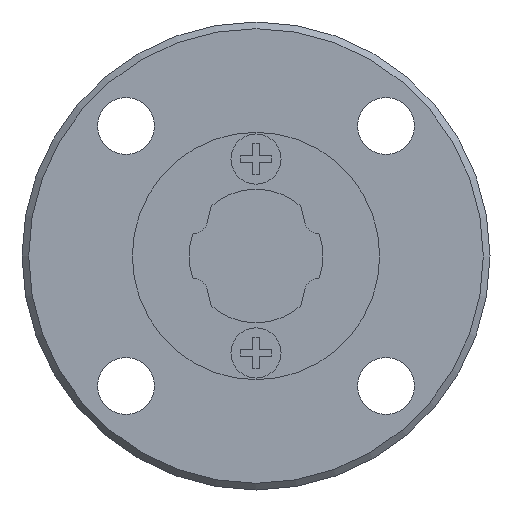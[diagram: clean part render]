
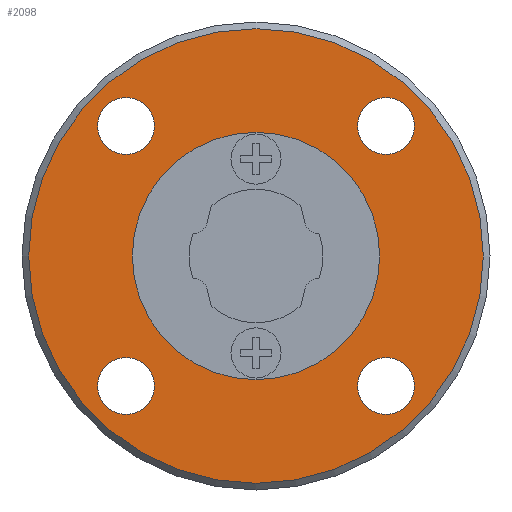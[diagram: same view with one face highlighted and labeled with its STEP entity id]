
A CAD part, left-side view. The second image highlights one B-rep face of the part: STEP entity #2098.
In plain terms, the highlighted planar face has unit normal (-1, 0, 0).
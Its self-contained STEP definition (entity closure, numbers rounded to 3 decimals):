
#48=PLANE('',#2319);
#702=ORIENTED_EDGE('',*,*,#1233,.F.);
#703=ORIENTED_EDGE('',*,*,#1234,.F.);
#704=ORIENTED_EDGE('',*,*,#1235,.F.);
#705=ORIENTED_EDGE('',*,*,#1236,.F.);
#706=ORIENTED_EDGE('',*,*,#1237,.F.);
#707=ORIENTED_EDGE('',*,*,#1232,.T.);
#1232=EDGE_CURVE('',#1508,#1508,#1676,.T.);
#1233=EDGE_CURVE('',#1509,#1509,#1677,.T.);
#1234=EDGE_CURVE('',#1510,#1510,#1678,.F.);
#1235=EDGE_CURVE('',#1511,#1511,#1679,.F.);
#1236=EDGE_CURVE('',#1512,#1512,#1680,.F.);
#1237=EDGE_CURVE('',#1513,#1513,#1681,.F.);
#1508=VERTEX_POINT('',#3339);
#1509=VERTEX_POINT('',#3342);
#1510=VERTEX_POINT('',#3344);
#1511=VERTEX_POINT('',#3346);
#1512=VERTEX_POINT('',#3348);
#1513=VERTEX_POINT('',#3350);
#1676=CIRCLE('',#2318,7.4);
#1677=CIRCLE('',#2320,13.6);
#1678=CIRCLE('',#2321,1.7);
#1679=CIRCLE('',#2322,1.7);
#1680=CIRCLE('',#2323,1.7);
#1681=CIRCLE('',#2324,1.7);
#1732=EDGE_LOOP('',(#702));
#1733=EDGE_LOOP('',(#703));
#1734=EDGE_LOOP('',(#704));
#1735=EDGE_LOOP('',(#705));
#1736=EDGE_LOOP('',(#706));
#1737=EDGE_LOOP('',(#707));
#1896=FACE_BOUND('',#1732,.T.);
#1897=FACE_BOUND('',#1733,.T.);
#1898=FACE_BOUND('',#1734,.T.);
#1899=FACE_BOUND('',#1735,.T.);
#1900=FACE_BOUND('',#1736,.T.);
#1901=FACE_BOUND('',#1737,.T.);
#2098=ADVANCED_FACE('',(#1896,#1897,#1898,#1899,#1900,#1901),#48,.F.);
#2318=AXIS2_PLACEMENT_3D('',#3338,#2695,#2696);
#2319=AXIS2_PLACEMENT_3D('',#3340,#2697,#2698);
#2320=AXIS2_PLACEMENT_3D('',#3341,#2699,#2700);
#2321=AXIS2_PLACEMENT_3D('',#3343,#2701,#2702);
#2322=AXIS2_PLACEMENT_3D('',#3345,#2703,#2704);
#2323=AXIS2_PLACEMENT_3D('',#3347,#2705,#2706);
#2324=AXIS2_PLACEMENT_3D('',#3349,#2707,#2708);
#2695=DIRECTION('',(1.,0.,0.));
#2696=DIRECTION('',(0.,0.,-1.));
#2697=DIRECTION('',(1.,0.,0.));
#2698=DIRECTION('',(0.,0.,-1.));
#2699=DIRECTION('',(1.,0.,0.));
#2700=DIRECTION('',(0.,0.,-1.));
#2701=DIRECTION('',(1.,0.,0.));
#2702=DIRECTION('',(0.,0.,-1.));
#2703=DIRECTION('',(1.,0.,0.));
#2704=DIRECTION('',(0.,0.,-1.));
#2705=DIRECTION('',(1.,0.,0.));
#2706=DIRECTION('',(0.,0.,-1.));
#2707=DIRECTION('',(1.,0.,0.));
#2708=DIRECTION('',(0.,0.,-1.));
#3338=CARTESIAN_POINT('',(-14.8,0.,0.));
#3339=CARTESIAN_POINT('',(-14.8,0.,-7.4));
#3340=CARTESIAN_POINT('',(-14.8,7.4,0.));
#3341=CARTESIAN_POINT('',(-14.8,0.,0.));
#3342=CARTESIAN_POINT('',(-14.8,0.,-13.6));
#3343=CARTESIAN_POINT('',(-14.8,-7.778,7.778));
#3344=CARTESIAN_POINT('',(-14.8,-7.778,6.078));
#3345=CARTESIAN_POINT('',(-14.8,-7.778,-7.778));
#3346=CARTESIAN_POINT('',(-14.8,-7.778,-9.478));
#3347=CARTESIAN_POINT('',(-14.8,7.778,-7.778));
#3348=CARTESIAN_POINT('',(-14.8,7.778,-9.478));
#3349=CARTESIAN_POINT('',(-14.8,7.778,7.778));
#3350=CARTESIAN_POINT('',(-14.8,7.778,6.078));
